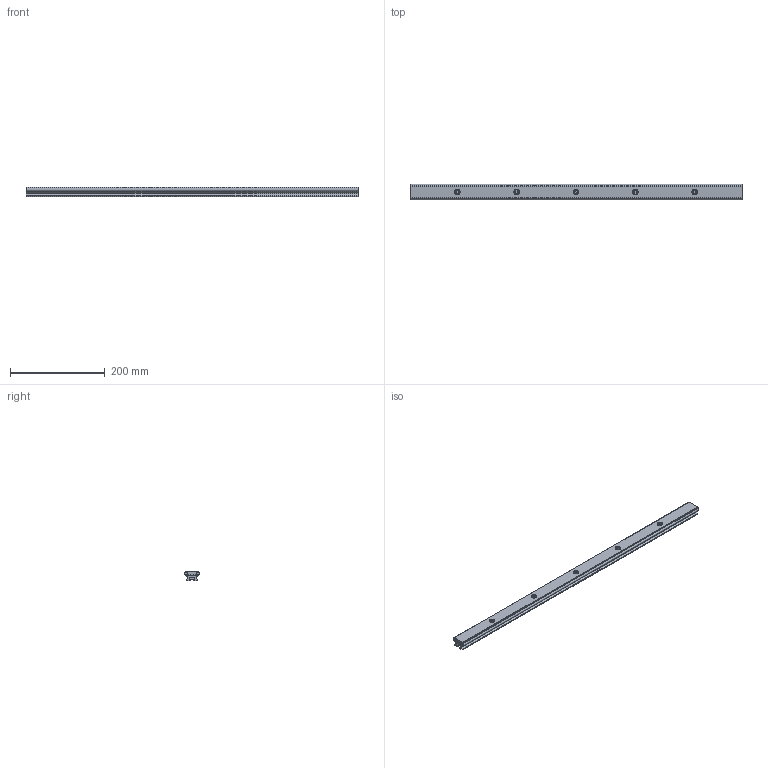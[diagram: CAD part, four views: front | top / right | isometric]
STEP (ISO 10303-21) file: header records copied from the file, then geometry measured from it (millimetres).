
FILE_DESCRIPTION(/* description */ ('Unknown'),/* implementation_level */ '2;1');
FILE_NAME(/* name */ 'Schiene_HLF32_700',/* time_stamp */ '2022-01-26T23:21:57+01:00',/* author */ ('Unknown'),/* organization */ ('Unknown'),/* preprocessor_version */ 'ST-DEVELOPER v16.7',/* originating_system */ 'Solid Edge',/* authorisation */ 'Unknown');
FILE_SCHEMA (('AUTOMOTIVE_DESIGN {1 0 10303 214 3 1 1}'));
Length unit declared in the file: millimetre
Products named in the file (6): Schiene_HLF32_700; HLF32_Profil_oben_700_gebohrt; Welle_Dm_6-700_lang; HLF32_Profil_unten-700; din_7984_10_9_m_6x12; mutter_din_557-m6_m_5
Assembly tree (14 placements, depth 2):
  Schiene_HLF32_700
    HLF32_Profil_oben_700_gebohrt
    Welle_Dm_6-700_lang  x2
    HLF32_Profil_unten-700
    din_7984_10_9_m_6x12  x5
    mutter_din_557-m6_m_5  x5
Bounding box: 700 x 32.02 x 20.01 mm (x, y, z)
Volume: 287021.7 mm3; surface area: 157020.8 mm2
Topology: 14 solids, 14 shells, 256 faces, 609 edges, 401 vertices
Faces by surface type: plane 157, cylinder 74, cone 20, torus 5
Full cylindrical faces by diameter (mm): 4.918 x5, 6 x12, 6.6 x5, 10 x5, 12 x5
Entity records: 4202 total; most frequent: DIRECTION 735, CARTESIAN_POINT 693, ORIENTED_EDGE 640, EDGE_CURVE 320, AXIS2_PLACEMENT_3D 267, VERTEX_POINT 225, LINE 201, VECTOR 201
